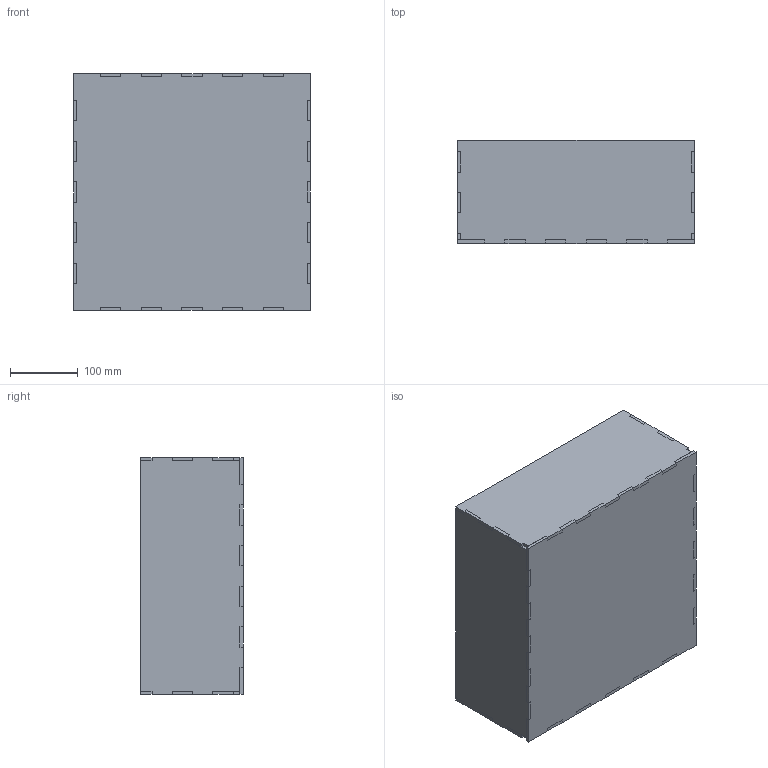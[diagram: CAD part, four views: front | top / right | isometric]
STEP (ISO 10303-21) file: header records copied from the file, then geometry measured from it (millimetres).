
FILE_DESCRIPTION(/* description */ (''),/* implementation_level */ '2;1');
FILE_NAME(/* name */ 'Control Box.STEP.stp',/* time_stamp */ '2026-11-04T02:56:20+02:00',/* author */ ('hp'),/* organization */ (''),/* preprocessor_version */ 'ST-DEVELOPER v20.1',/* originating_system */ 'Autodesk Inventor 2026',/* authorisation */ '');
FILE_SCHEMA (('AUTOMOTIVE_DESIGN { 1 0 10303 214 3 1 1 }'));
Length unit declared in the file: millimetre
Products named in the file (6): Control Box; Bottom of Control Box; Right of Control Box; Left of Control Box; Front of Control Box; Back of Control Box
Assembly tree (5 placements, depth 2):
  Control Box
    Bottom of Control Box
    Right of Control Box
    Left of Control Box
    Front of Control Box
    Back of Control Box
Bounding box: 350 x 151.81 x 350 mm (x, y, z)
Volume: 1624515.2 mm3; surface area: 679278.6 mm2
Topology: 5 solids, 5 shells, 262 faces, 756 edges, 504 vertices
Faces by surface type: plane 262
Entity records: 8641 total; most frequent: CARTESIAN_POINT 1533, ORIENTED_EDGE 1512, DIRECTION 1302, LINE 756, VECTOR 756, EDGE_CURVE 756, VERTEX_POINT 504, AXIS2_PLACEMENT_3D 273
